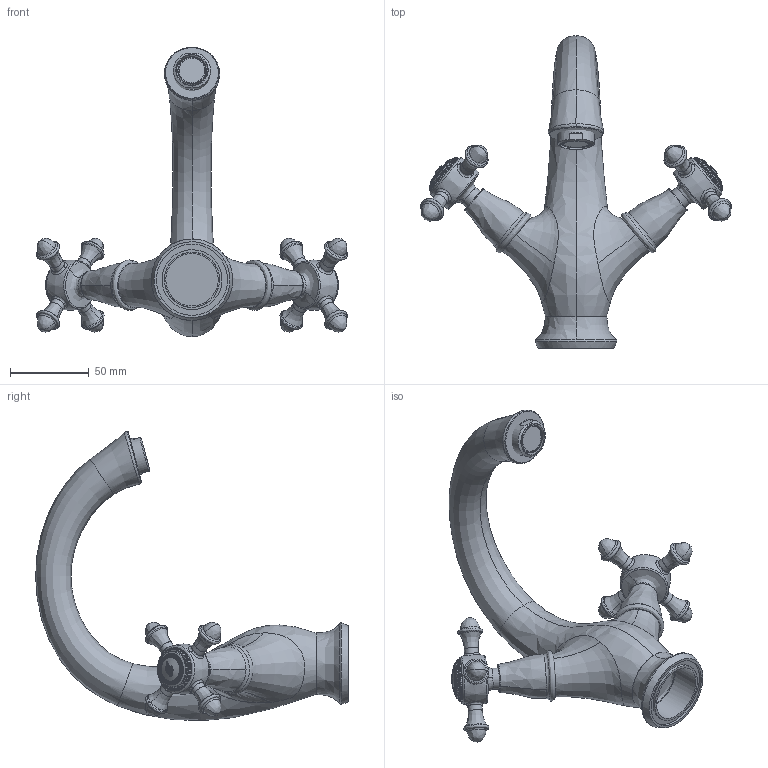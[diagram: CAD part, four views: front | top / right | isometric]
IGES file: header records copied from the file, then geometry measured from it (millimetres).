
Global section: file name: 8ad6f7f0-8908-4189-b2ab-bf0550b366ce; native system: unknown; preprocessor: unknown; author: unknown; organization: unknown; date: 20191209.171240; units: millimetre
Bounding box: 196.8 x 198.09 x 183.18 mm (x, y, z)
Volume: 186437.1 mm3; surface area: 117251 mm2
Topology: 12 solids, 16 shells, 1591 faces, 5378 edges, 3828 vertices
Faces by surface type: bspline 1588, revolution 3
